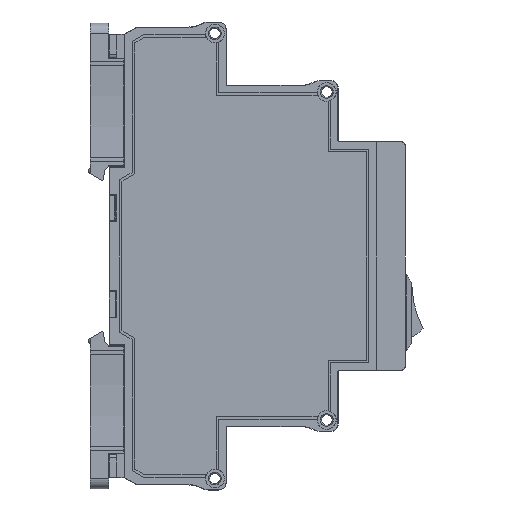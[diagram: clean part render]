
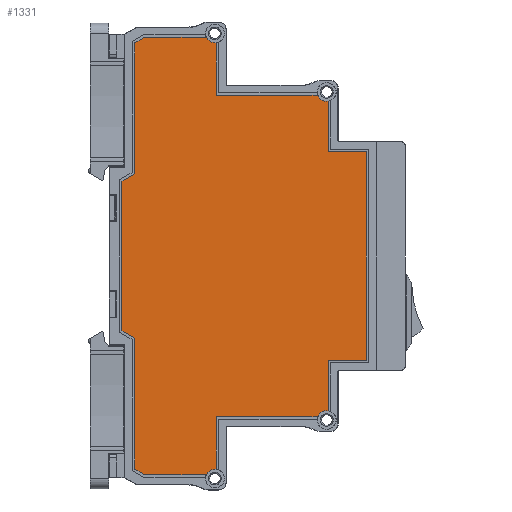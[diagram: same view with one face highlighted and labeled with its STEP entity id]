
A CAD part, front view. The second image highlights one B-rep face of the part: STEP entity #1331.
In plain terms, the highlighted planar face has unit normal (0, -1, 0) as drawn and (1, 0, 0) by its records, which use the part's own axes.
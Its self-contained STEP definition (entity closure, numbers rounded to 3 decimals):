
#1331=ADVANCED_FACE('',(#29132),#29134,.T.);
#29132=FACE_BOUND('',#29133,.T.);
#29133=EDGE_LOOP('',(#50685,#50686,#50687,#50688,#50689,#50690,#50691,#50692,#50693,
#50694,#50695,#50696,#50697,#50698,#50699,#50700,#50701,#50702,#50703,#50704,#50705,
#50706));
#29134=PLANE('',#29135);
#29135=AXIS2_PLACEMENT_3D('',#29136,#29137,#29138);
#29136=CARTESIAN_POINT('',(6.5,0.,0.));
#29137=DIRECTION('',(1.,0.,0.));
#29138=DIRECTION('',(0.,0.,-1.));
#50685=ORIENTED_EDGE('',*,*,#69804,.F.);
#50686=ORIENTED_EDGE('',*,*,#69805,.T.);
#50687=ORIENTED_EDGE('',*,*,#69722,.F.);
#50688=ORIENTED_EDGE('',*,*,#69806,.T.);
#50689=ORIENTED_EDGE('',*,*,#69807,.T.);
#50690=ORIENTED_EDGE('',*,*,#69808,.T.);
#50691=ORIENTED_EDGE('',*,*,#69809,.T.);
#50692=ORIENTED_EDGE('',*,*,#69810,.T.);
#50693=ORIENTED_EDGE('',*,*,#69706,.F.);
#50694=ORIENTED_EDGE('',*,*,#69811,.F.);
#50695=ORIENTED_EDGE('',*,*,#69812,.T.);
#50696=ORIENTED_EDGE('',*,*,#69716,.F.);
#50697=ORIENTED_EDGE('',*,*,#69813,.T.);
#50698=ORIENTED_EDGE('',*,*,#69814,.F.);
#50699=ORIENTED_EDGE('',*,*,#69815,.T.);
#50700=ORIENTED_EDGE('',*,*,#69816,.T.);
#50701=ORIENTED_EDGE('',*,*,#69817,.T.);
#50702=ORIENTED_EDGE('',*,*,#69818,.T.);
#50703=ORIENTED_EDGE('',*,*,#69819,.T.);
#50704=ORIENTED_EDGE('',*,*,#69820,.F.);
#50705=ORIENTED_EDGE('',*,*,#69821,.T.);
#50706=ORIENTED_EDGE('',*,*,#69732,.F.);
#69706=EDGE_CURVE('',#78550,#78535,#78552,.T.);
#69716=EDGE_CURVE('',#78570,#78555,#78572,.T.);
#69722=EDGE_CURVE('',#78582,#78584,#78585,.T.);
#69732=EDGE_CURVE('',#78602,#78604,#78605,.T.);
#69804=EDGE_CURVE('',#78743,#78602,#78744,.T.);
#69805=EDGE_CURVE('',#78743,#78584,#78745,.T.);
#69806=EDGE_CURVE('',#78582,#78746,#78747,.T.);
#69807=EDGE_CURVE('',#78746,#78748,#78749,.T.);
#69808=EDGE_CURVE('',#78748,#78750,#78751,.T.);
#69809=EDGE_CURVE('',#78750,#78752,#78753,.T.);
#69810=EDGE_CURVE('',#78752,#78535,#78754,.T.);
#69811=EDGE_CURVE('',#78755,#78550,#78756,.T.);
#69812=EDGE_CURVE('',#78755,#78555,#78757,.T.);
#69813=EDGE_CURVE('',#78570,#78758,#78759,.T.);
#69814=EDGE_CURVE('',#78760,#78758,#78761,.T.);
#69815=EDGE_CURVE('',#78760,#78762,#78763,.T.);
#69816=EDGE_CURVE('',#78762,#78764,#78765,.T.);
#69817=EDGE_CURVE('',#78764,#78766,#78767,.T.);
#69818=EDGE_CURVE('',#78766,#78768,#78769,.T.);
#69819=EDGE_CURVE('',#78768,#78770,#78771,.T.);
#69820=EDGE_CURVE('',#78772,#78770,#78773,.T.);
#69821=EDGE_CURVE('',#78772,#78604,#78774,.T.);
#78535=VERTEX_POINT('',#93886);
#78550=VERTEX_POINT('',#93919);
#78552=CIRCLE('',#93923,1.85);
#78555=VERTEX_POINT('',#93932);
#78570=VERTEX_POINT('',#93965);
#78572=CIRCLE('',#93969,1.85);
#78582=VERTEX_POINT('',#93993);
#78584=VERTEX_POINT('',#93997);
#78585=CIRCLE('',#93998,1.85);
#78602=VERTEX_POINT('',#94039);
#78604=VERTEX_POINT('',#94043);
#78605=CIRCLE('',#94044,1.85);
#78743=VERTEX_POINT('',#94348);
#78744=LINE('',#94349,#94350);
#78745=LINE('',#94352,#94353);
#78746=VERTEX_POINT('',#94355);
#78747=LINE('',#94356,#94357);
#78748=VERTEX_POINT('',#94359);
#78749=LINE('',#94360,#94361);
#78750=VERTEX_POINT('',#94363);
#78751=LINE('',#94364,#94365);
#78752=VERTEX_POINT('',#94367);
#78753=LINE('',#94368,#94369);
#78754=LINE('',#94371,#94372);
#78755=VERTEX_POINT('',#94374);
#78756=LINE('',#94375,#94376);
#78757=LINE('',#94378,#94379);
#78758=VERTEX_POINT('',#94381);
#78759=LINE('',#94382,#94383);
#78760=VERTEX_POINT('',#94385);
#78761=LINE('',#94386,#94387);
#78762=VERTEX_POINT('',#94389);
#78763=LINE('',#94390,#94391);
#78764=VERTEX_POINT('',#94393);
#78765=LINE('',#94394,#94395);
#78766=VERTEX_POINT('',#94397);
#78767=LINE('',#94398,#94399);
#78768=VERTEX_POINT('',#94401);
#78769=LINE('',#94402,#94403);
#78770=VERTEX_POINT('',#94405);
#78771=LINE('',#94406,#94407);
#78772=VERTEX_POINT('',#94409);
#78773=LINE('',#94410,#94411);
#78774=LINE('',#94413,#94414);
#93886=CARTESIAN_POINT('',(6.5,-30.541,38.985));
#93919=CARTESIAN_POINT('',(6.5,-31.7,37.015));
#93923=AXIS2_PLACEMENT_3D('',#93924,#93925,#93926);
#93924=CARTESIAN_POINT('',(6.5,-32.375,38.738));
#93925=DIRECTION('',(1.,0.,0.));
#93926=DIRECTION('',(0.,0.365,-0.931));
#93932=CARTESIAN_POINT('',(6.5,-42.103,16.897));
#93965=CARTESIAN_POINT('',(6.5,-43.2,14.953));
#93969=AXIS2_PLACEMENT_3D('',#93970,#93971,#93972);
#93970=CARTESIAN_POINT('',(6.5,-43.937,16.65));
#93971=DIRECTION('',(1.,0.,0.));
#93972=DIRECTION('',(0.,0.398,-0.917));
#93993=CARTESIAN_POINT('',(6.5,30.541,38.985));
#93997=CARTESIAN_POINT('',(6.5,31.7,37.015));
#93998=AXIS2_PLACEMENT_3D('',#93999,#94000,#94001);
#93999=CARTESIAN_POINT('',(6.5,32.375,38.738));
#94000=DIRECTION('',(1.,0.,0.));
#94001=DIRECTION('',(0.,-0.991,0.134));
#94039=CARTESIAN_POINT('',(6.5,42.103,16.897));
#94043=CARTESIAN_POINT('',(6.5,43.2,14.953));
#94044=AXIS2_PLACEMENT_3D('',#94045,#94046,#94047);
#94045=CARTESIAN_POINT('',(6.5,43.937,16.65));
#94046=DIRECTION('',(1.,0.,0.));
#94047=DIRECTION('',(0.,-0.991,0.134));
#94348=CARTESIAN_POINT('',(6.5,31.7,16.897));
#94349=CARTESIAN_POINT('',(6.5,31.7,16.897));
#94350=VECTOR('',#94351,1.);
#94351=DIRECTION('',(0.,1.,0.));
#94352=CARTESIAN_POINT('',(6.5,31.7,16.897));
#94353=VECTOR('',#94354,1.);
#94354=DIRECTION('',(0.,0.,1.));
#94355=CARTESIAN_POINT('',(6.5,20.6,38.985));
#94356=CARTESIAN_POINT('',(6.5,30.541,38.985));
#94357=VECTOR('',#94358,1.);
#94358=DIRECTION('',(0.,-1.,0.));
#94359=CARTESIAN_POINT('',(6.5,20.6,46.53));
#94360=CARTESIAN_POINT('',(6.5,20.6,38.985));
#94361=VECTOR('',#94362,1.);
#94362=DIRECTION('',(0.,0.,1.));
#94363=CARTESIAN_POINT('',(6.5,-20.6,46.53));
#94364=CARTESIAN_POINT('',(6.5,20.6,46.53));
#94365=VECTOR('',#94366,1.);
#94366=DIRECTION('',(0.,-1.,0.));
#94367=CARTESIAN_POINT('',(6.5,-20.6,38.985));
#94368=CARTESIAN_POINT('',(6.5,-20.6,46.53));
#94369=VECTOR('',#94370,1.);
#94370=DIRECTION('',(0.,0.,-1.));
#94371=CARTESIAN_POINT('',(6.5,-20.6,38.985));
#94372=VECTOR('',#94373,1.);
#94373=DIRECTION('',(0.,-1.,0.));
#94374=CARTESIAN_POINT('',(6.5,-31.7,16.897));
#94375=CARTESIAN_POINT('',(6.5,-31.7,16.897));
#94376=VECTOR('',#94377,1.);
#94377=DIRECTION('',(0.,0.,1.));
#94378=CARTESIAN_POINT('',(6.5,-31.7,16.897));
#94379=VECTOR('',#94380,1.);
#94380=DIRECTION('',(0.,-1.,0.));
#94381=CARTESIAN_POINT('',(6.5,-43.2,2.761));
#94382=CARTESIAN_POINT('',(6.5,-43.2,14.953));
#94383=VECTOR('',#94384,1.);
#94384=DIRECTION('',(0.,0.,-1.));
#94385=CARTESIAN_POINT('',(6.5,-42.068,0.8));
#94386=CARTESIAN_POINT('',(6.5,-42.068,0.8));
#94387=VECTOR('',#94388,1.);
#94388=DIRECTION('',(0.,-0.5,0.866));
#94389=CARTESIAN_POINT('',(6.5,-16.211,0.8));
#94390=CARTESIAN_POINT('',(6.5,-42.068,0.8));
#94391=VECTOR('',#94392,1.);
#94392=DIRECTION('',(0.,1.,0.));
#94393=CARTESIAN_POINT('',(6.5,-14.768,-1.7));
#94394=CARTESIAN_POINT('',(6.5,-16.211,0.8));
#94395=VECTOR('',#94396,1.);
#94396=DIRECTION('',(0.,0.5,-0.866));
#94397=CARTESIAN_POINT('',(6.5,14.768,-1.7));
#94398=CARTESIAN_POINT('',(6.5,-14.768,-1.7));
#94399=VECTOR('',#94400,1.);
#94400=DIRECTION('',(0.,1.,0.));
#94401=CARTESIAN_POINT('',(6.5,16.211,0.8));
#94402=CARTESIAN_POINT('',(6.5,14.768,-1.7));
#94403=VECTOR('',#94404,1.);
#94404=DIRECTION('',(0.,0.5,0.866));
#94405=CARTESIAN_POINT('',(6.5,42.068,0.8));
#94406=CARTESIAN_POINT('',(6.5,16.211,0.8));
#94407=VECTOR('',#94408,1.);
#94408=DIRECTION('',(0.,1.,0.));
#94409=CARTESIAN_POINT('',(6.5,43.2,2.761));
#94410=CARTESIAN_POINT('',(6.5,43.2,2.761));
#94411=VECTOR('',#94412,1.);
#94412=DIRECTION('',(0.,-0.5,-0.866));
#94413=CARTESIAN_POINT('',(6.5,43.2,2.761));
#94414=VECTOR('',#94415,1.);
#94415=DIRECTION('',(0.,0.,1.));
